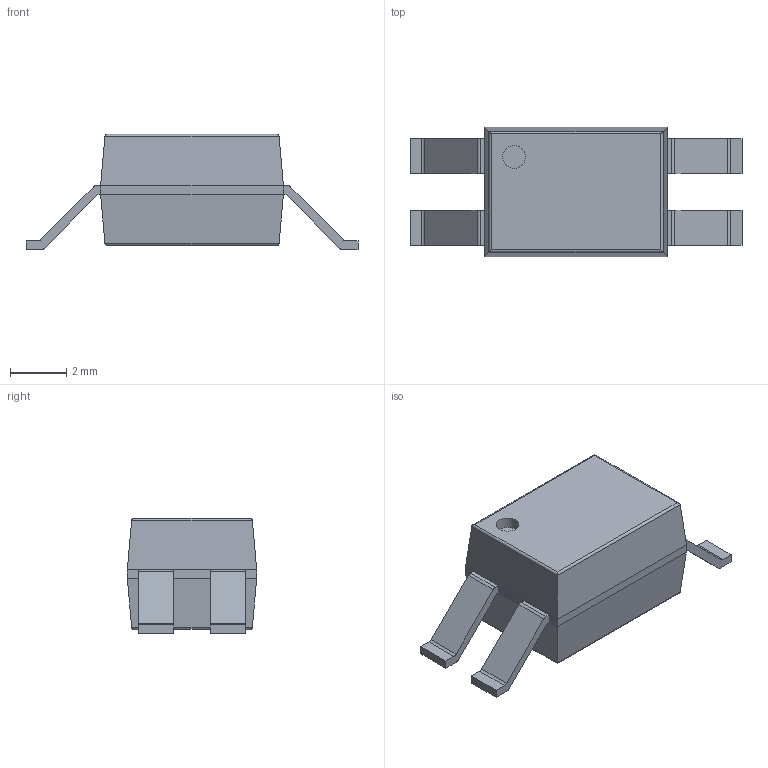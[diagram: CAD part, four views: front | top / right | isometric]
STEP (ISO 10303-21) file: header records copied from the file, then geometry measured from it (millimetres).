
FILE_DESCRIPTION(('FreeCAD Model'),'2;1');
FILE_NAME('/var/www/3D/0T/21292036.1.1.stp','2025-12-13T05:24:46',( 'Author'),(''),'Open CASCADE STEP processor 6.9','FreeCAD','Unknown' );
FILE_SCHEMA(('AUTOMOTIVE_DESIGN { 1 0 10303 214 1 1 1 1 }'));
Length unit declared in the file: millimetre
Products named in the file (3): ASSEMBLY; Body; PinsArrayLR
Assembly tree (2 placements, depth 2):
  ASSEMBLY
    Body
    PinsArrayLR
Bounding box: 11.8 x 4.6 x 4.1 mm (x, y, z)
Volume: 116.8 mm3; surface area: 184.6 mm2
Topology: 5 solids, 5 shells, 76 faces, 179 edges, 114 vertices
Faces by surface type: plane 55, cylinder 21
Full cylindrical faces by diameter (mm): 0.812 x1
Entity records: 4683 total; most frequent: CARTESIAN_POINT 942, DIRECTION 689, LINE 449, VECTOR 449, ORIENTED_EDGE 358, PCURVE 358, DEFINITIONAL_REPRESENTATION 358, EDGE_CURVE 179
